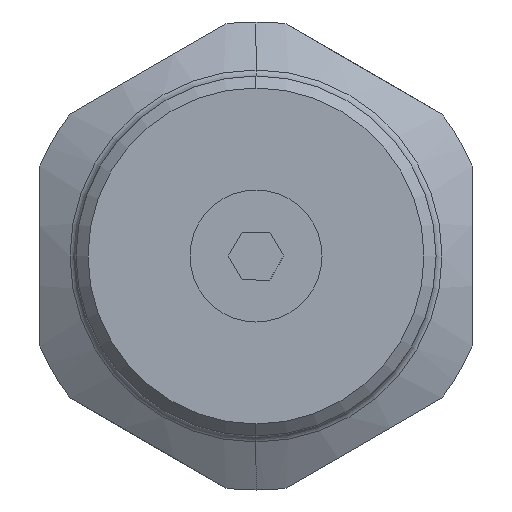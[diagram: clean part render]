
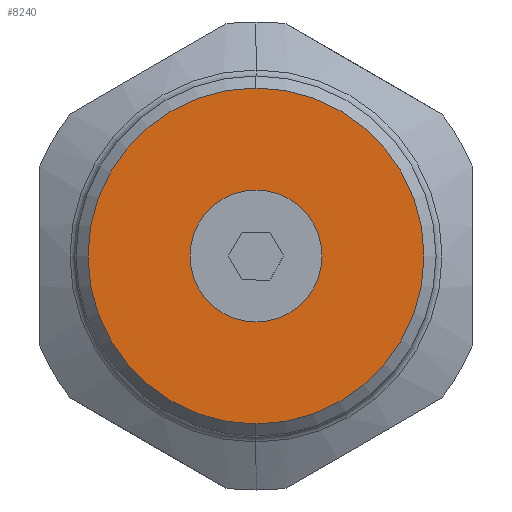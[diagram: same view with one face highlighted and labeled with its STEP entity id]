
A CAD part, left-side view. The second image highlights one B-rep face of the part: STEP entity #8240.
In plain terms, the highlighted planar face has unit normal (-1, 0, 0).
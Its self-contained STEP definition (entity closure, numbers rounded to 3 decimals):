
#34 = DIRECTION ( 'NONE',  ( 1., 0., 0. ) ) ;
#330 = DIRECTION ( 'NONE',  ( 0., 0., 1. ) ) ;
#449 = CARTESIAN_POINT ( 'NONE',  ( -57.3, 0., 5.5 ) ) ;
#529 = VERTEX_POINT ( 'NONE', #4561 ) ;
#567 = EDGE_LOOP ( 'NONE', ( #6710, #4073 ) ) ;
#902 = EDGE_CURVE ( 'NONE', #2326, #6669, #5603, .T. ) ;
#965 = AXIS2_PLACEMENT_3D ( 'NONE', #5844, #34, #2978 ) ;
#1266 = AXIS2_PLACEMENT_3D ( 'NONE', #6283, #2735, #2877 ) ;
#1271 = CARTESIAN_POINT ( 'NONE',  ( -57.3, 0., 0. ) ) ;
#2016 = DIRECTION ( 'NONE',  ( 0., 0., -1. ) ) ;
#2326 = VERTEX_POINT ( 'NONE', #449 ) ;
#2676 = AXIS2_PLACEMENT_3D ( 'NONE', #9716, #5171, #4287 ) ;
#2735 = DIRECTION ( 'NONE',  ( -1., 0., 0. ) ) ;
#2877 = DIRECTION ( 'NONE',  ( 0., 0., -1. ) ) ;
#2978 = DIRECTION ( 'NONE',  ( 0., 0., -1. ) ) ;
#3426 = EDGE_CURVE ( 'NONE', #4443, #529, #4868, .T. ) ;
#3453 = CARTESIAN_POINT ( 'NONE',  ( -57.3, 0., -5.5 ) ) ;
#3558 = AXIS2_PLACEMENT_3D ( 'NONE', #1271, #4259, #330 ) ;
#3792 = EDGE_CURVE ( 'NONE', #6669, #2326, #7715, .T. ) ;
#4073 = ORIENTED_EDGE ( 'NONE', *, *, #5148, .T. ) ;
#4259 = DIRECTION ( 'NONE',  ( -1., 0., 0. ) ) ;
#4287 = DIRECTION ( 'NONE',  ( 0., 0., 1. ) ) ;
#4443 = VERTEX_POINT ( 'NONE', #7443 ) ;
#4561 = CARTESIAN_POINT ( 'NONE',  ( -57.3, 0., 14. ) ) ;
#4868 = CIRCLE ( 'NONE', #1266, 14. ) ;
#5148 = EDGE_CURVE ( 'NONE', #529, #4443, #7398, .T. ) ;
#5171 = DIRECTION ( 'NONE',  ( -1., 0., 0. ) ) ;
#5227 = EDGE_LOOP ( 'NONE', ( #5896, #5335 ) ) ;
#5335 = ORIENTED_EDGE ( 'NONE', *, *, #3792, .F. ) ;
#5603 = CIRCLE ( 'NONE', #3558, 5.5 ) ;
#5844 = CARTESIAN_POINT ( 'NONE',  ( -57.3, 0., 0. ) ) ;
#5896 = ORIENTED_EDGE ( 'NONE', *, *, #902, .F. ) ;
#6283 = CARTESIAN_POINT ( 'NONE',  ( -57.3, 0., 0. ) ) ;
#6669 = VERTEX_POINT ( 'NONE', #3453 ) ;
#6710 = ORIENTED_EDGE ( 'NONE', *, *, #3426, .T. ) ;
#7191 = CARTESIAN_POINT ( 'NONE',  ( -57.3, 0., 0. ) ) ;
#7398 = CIRCLE ( 'NONE', #8034, 14. ) ;
#7443 = CARTESIAN_POINT ( 'NONE',  ( -57.3, 0., -14. ) ) ;
#7482 = FACE_BOUND ( 'NONE', #5227, .T. ) ;
#7715 = CIRCLE ( 'NONE', #2676, 5.5 ) ;
#8034 = AXIS2_PLACEMENT_3D ( 'NONE', #7191, #9513, #2016 ) ;
#8177 = FACE_OUTER_BOUND ( 'NONE', #567, .T. ) ;
#8240 = ADVANCED_FACE ( 'NONE', ( #7482, #8177 ), #9002, .F. ) ;
#9002 = PLANE ( 'NONE',  #965 ) ;
#9513 = DIRECTION ( 'NONE',  ( -1., 0., 0. ) ) ;
#9716 = CARTESIAN_POINT ( 'NONE',  ( -57.3, 0., 0. ) ) ;
